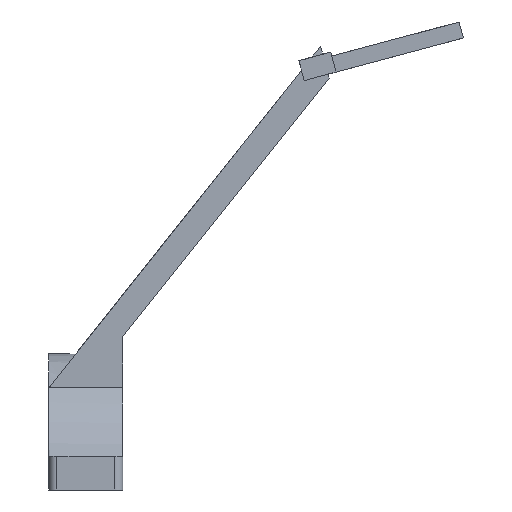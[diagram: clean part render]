
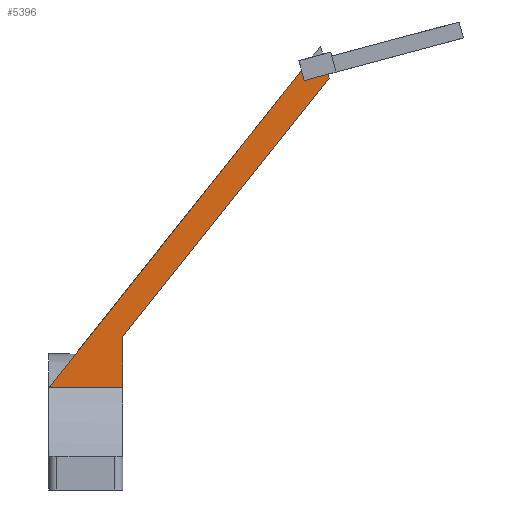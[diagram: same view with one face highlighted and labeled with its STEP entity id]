
A CAD part, front view. The second image highlights one B-rep face of the part: STEP entity #5396.
In plain terms, the highlighted planar face has unit normal (0, -1, 0).
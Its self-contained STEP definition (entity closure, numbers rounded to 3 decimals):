
#33 = CYLINDRICAL_SURFACE('',#34,33.8);
#34 = AXIS2_PLACEMENT_3D('',#35,#36,#37);
#35 = CARTESIAN_POINT('',(-35.,0.,0.));
#36 = DIRECTION('',(-1.,-0.,-0.));
#37 = DIRECTION('',(0.,1.,0.));
#307 = PLANE('',#308);
#308 = AXIS2_PLACEMENT_3D('',#309,#310,#311);
#309 = CARTESIAN_POINT('',(-17.,0.,0.)
  );
#310 = DIRECTION('',(1.,0.,0.));
#311 = DIRECTION('',(-0.,0.,1.));
#454 = VERTEX_POINT('',#455);
#455 = CARTESIAN_POINT('',(-34.873,-22.,25.66));
#473 = PLANE('',#474);
#474 = AXIS2_PLACEMENT_3D('',#475,#476,#477);
#475 = CARTESIAN_POINT('',(31.04,-18.,108.469));
#476 = DIRECTION('',(0.782,0.,-0.623));
#477 = DIRECTION('',(-0.623,0.,-0.782));
#485 = EDGE_CURVE('',#486,#454,#488,.T.);
#486 = VERTEX_POINT('',#487);
#487 = CARTESIAN_POINT('',(-17.,-22.,25.66));
#488 = SURFACE_CURVE('',#489,(#493,#499),.PCURVE_S1.);
#489 = LINE('',#490,#491);
#490 = CARTESIAN_POINT('',(-35.,-22.,25.66));
#491 = VECTOR('',#492,1.);
#492 = DIRECTION('',(-1.,-0.,-0.));
#493 = PCURVE('',#33,#494);
#494 = DEFINITIONAL_REPRESENTATION('',(#495),#498);
#495 = B_SPLINE_CURVE_WITH_KNOTS('',1,(#496,#497),.UNSPECIFIED.,.F.,.F.,
  (2,2),(-18.,0.),.PIECEWISE_BEZIER_KNOTS.);
#496 = CARTESIAN_POINT('',(-2.28,-18.));
#497 = CARTESIAN_POINT('',(-2.28,0.));
#498 = ( GEOMETRIC_REPRESENTATION_CONTEXT(2) 
PARAMETRIC_REPRESENTATION_CONTEXT() REPRESENTATION_CONTEXT('2D SPACE',''
  ) );
#499 = PCURVE('',#500,#505);
#500 = PLANE('',#501);
#501 = AXIS2_PLACEMENT_3D('',#502,#503,#504);
#502 = CARTESIAN_POINT('',(0.058,-22.,63.896));
#503 = DIRECTION('',(-0.,-1.,-0.));
#504 = DIRECTION('',(0.,0.,-1.));
#505 = DEFINITIONAL_REPRESENTATION('',(#506),#509);
#506 = B_SPLINE_CURVE_WITH_KNOTS('',1,(#507,#508),.UNSPECIFIED.,.F.,.F.,
  (2,2),(-18.,0.),.PIECEWISE_BEZIER_KNOTS.);
#507 = CARTESIAN_POINT('',(38.235,-17.058));
#508 = CARTESIAN_POINT('',(38.235,-35.058));
#509 = ( GEOMETRIC_REPRESENTATION_CONTEXT(2) 
PARAMETRIC_REPRESENTATION_CONTEXT() REPRESENTATION_CONTEXT('2D SPACE',''
  ) );
#1666 = PLANE('',#1667);
#1667 = AXIS2_PLACEMENT_3D('',#1668,#1669,#1670);
#1668 = CARTESIAN_POINT('',(46.375,0.,105.331));
#1669 = DIRECTION('',(0.259,0.,-0.966));
#1670 = DIRECTION('',(0.966,0.,0.259));
#1690 = PLANE('',#1691);
#1691 = AXIS2_PLACEMENT_3D('',#1692,#1693,#1694);
#1692 = CARTESIAN_POINT('',(26.021,-20.,104.019));
#1693 = DIRECTION('',(0.966,0.,0.259));
#1694 = DIRECTION('',(0.,1.,0.));
#2042 = VERTEX_POINT('',#2043);
#2043 = CARTESIAN_POINT('',(27.056,-22.,100.155));
#2064 = EDGE_CURVE('',#2065,#2042,#2067,.T.);
#2065 = VERTEX_POINT('',#2066);
#2066 = CARTESIAN_POINT('',(32.852,-22.,101.708));
#2067 = SURFACE_CURVE('',#2068,(#2072,#2078),.PCURVE_S1.);
#2068 = LINE('',#2069,#2070);
#2069 = CARTESIAN_POINT('',(19.588,-22.,98.154));
#2070 = VECTOR('',#2071,1.);
#2071 = DIRECTION('',(-0.966,0.,-0.259));
#2072 = PCURVE('',#1666,#2073);
#2073 = DEFINITIONAL_REPRESENTATION('',(#2074),#2077);
#2074 = B_SPLINE_CURVE_WITH_KNOTS('',1,(#2075,#2076),.UNSPECIFIED.,.F.,
  .F.,(2,2),(-14.,-7.732),.PIECEWISE_BEZIER_KNOTS.);
#2075 = CARTESIAN_POINT('',(-13.732,22.));
#2076 = CARTESIAN_POINT('',(-20.,22.));
#2077 = ( GEOMETRIC_REPRESENTATION_CONTEXT(2) 
PARAMETRIC_REPRESENTATION_CONTEXT() REPRESENTATION_CONTEXT('2D SPACE',''
  ) );
#2078 = PCURVE('',#500,#2079);
#2079 = DEFINITIONAL_REPRESENTATION('',(#2080),#2083);
#2080 = B_SPLINE_CURVE_WITH_KNOTS('',1,(#2081,#2082),.UNSPECIFIED.,.F.,
  .F.,(2,2),(-14.,-7.732),.PIECEWISE_BEZIER_KNOTS.);
#2081 = CARTESIAN_POINT('',(-37.882,33.053));
#2082 = CARTESIAN_POINT('',(-36.26,26.999));
#2083 = ( GEOMETRIC_REPRESENTATION_CONTEXT(2) 
PARAMETRIC_REPRESENTATION_CONTEXT() REPRESENTATION_CONTEXT('2D SPACE',''
  ) );
#2100 = PLANE('',#2101);
#2101 = AXIS2_PLACEMENT_3D('',#2102,#2103,#2104);
#2102 = CARTESIAN_POINT('',(33.11,-18.,100.742));
#2103 = DIRECTION('',(-0.966,-0.,-0.259));
#2104 = DIRECTION('',(-0.259,0.,0.966));
#5028 = VERTEX_POINT('',#5029);
#5029 = CARTESIAN_POINT('',(33.11,-22.,100.742));
#5043 = PLANE('',#5044);
#5044 = AXIS2_PLACEMENT_3D('',#5045,#5046,#5047);
#5045 = CARTESIAN_POINT('',(-17.,-18.,38.));
#5046 = DIRECTION('',(-0.781,0.,0.624));
#5047 = DIRECTION('',(0.624,0.,0.781));
#5055 = EDGE_CURVE('',#5028,#2065,#5056,.T.);
#5056 = SURFACE_CURVE('',#5057,(#5061,#5068),.PCURVE_S1.);
#5057 = LINE('',#5058,#5059);
#5058 = CARTESIAN_POINT('',(33.11,-22.,100.742));
#5059 = VECTOR('',#5060,1.);
#5060 = DIRECTION('',(-0.259,0.,0.966));
#5061 = PCURVE('',#2100,#5062);
#5062 = DEFINITIONAL_REPRESENTATION('',(#5063),#5067);
#5063 = LINE('',#5064,#5065);
#5064 = CARTESIAN_POINT('',(0.,-4.));
#5065 = VECTOR('',#5066,1.);
#5066 = DIRECTION('',(1.,0.));
#5067 = ( GEOMETRIC_REPRESENTATION_CONTEXT(2) 
PARAMETRIC_REPRESENTATION_CONTEXT() REPRESENTATION_CONTEXT('2D SPACE',''
  ) );
#5068 = PCURVE('',#500,#5069);
#5069 = DEFINITIONAL_REPRESENTATION('',(#5070),#5074);
#5070 = LINE('',#5071,#5072);
#5071 = CARTESIAN_POINT('',(-36.847,33.053));
#5072 = VECTOR('',#5073,1.);
#5073 = DIRECTION('',(-0.966,-0.259));
#5074 = ( GEOMETRIC_REPRESENTATION_CONTEXT(2) 
PARAMETRIC_REPRESENTATION_CONTEXT() REPRESENTATION_CONTEXT('2D SPACE',''
  ) );
#5083 = VERTEX_POINT('',#5084);
#5084 = CARTESIAN_POINT('',(-17.,-22.,38.));
#5105 = EDGE_CURVE('',#5083,#5028,#5106,.T.);
#5106 = SURFACE_CURVE('',#5107,(#5111,#5118),.PCURVE_S1.);
#5107 = LINE('',#5108,#5109);
#5108 = CARTESIAN_POINT('',(-17.,-22.,38.));
#5109 = VECTOR('',#5110,1.);
#5110 = DIRECTION('',(0.624,0.,0.781));
#5111 = PCURVE('',#5043,#5112);
#5112 = DEFINITIONAL_REPRESENTATION('',(#5113),#5117);
#5113 = LINE('',#5114,#5115);
#5114 = CARTESIAN_POINT('',(0.,-4.));
#5115 = VECTOR('',#5116,1.);
#5116 = DIRECTION('',(1.,0.));
#5117 = ( GEOMETRIC_REPRESENTATION_CONTEXT(2) 
PARAMETRIC_REPRESENTATION_CONTEXT() REPRESENTATION_CONTEXT('2D SPACE',''
  ) );
#5118 = PCURVE('',#500,#5119);
#5119 = DEFINITIONAL_REPRESENTATION('',(#5120),#5124);
#5120 = LINE('',#5121,#5122);
#5121 = CARTESIAN_POINT('',(25.896,-17.058));
#5122 = VECTOR('',#5123,1.);
#5123 = DIRECTION('',(-0.781,0.624));
#5124 = ( GEOMETRIC_REPRESENTATION_CONTEXT(2) 
PARAMETRIC_REPRESENTATION_CONTEXT() REPRESENTATION_CONTEXT('2D SPACE',''
  ) );
#5160 = EDGE_CURVE('',#5161,#2042,#5163,.T.);
#5161 = VERTEX_POINT('',#5162);
#5162 = CARTESIAN_POINT('',(26.393,-22.,102.631));
#5163 = SURFACE_CURVE('',#5164,(#5168,#5174),.PCURVE_S1.);
#5164 = LINE('',#5165,#5166);
#5165 = CARTESIAN_POINT('',(30.167,-22.,88.546));
#5166 = VECTOR('',#5167,1.);
#5167 = DIRECTION('',(0.259,0.,-0.966));
#5168 = PCURVE('',#1690,#5169);
#5169 = DEFINITIONAL_REPRESENTATION('',(#5170),#5173);
#5170 = B_SPLINE_CURVE_WITH_KNOTS('',1,(#5171,#5172),.UNSPECIFIED.,.F.,
  .F.,(2,2),(-17.018,-12.018),.PIECEWISE_BEZIER_KNOTS.);
#5171 = CARTESIAN_POINT('',(-2.,1.));
#5172 = CARTESIAN_POINT('',(-2.,-4.));
#5173 = ( GEOMETRIC_REPRESENTATION_CONTEXT(2) 
PARAMETRIC_REPRESENTATION_CONTEXT() REPRESENTATION_CONTEXT('2D SPACE',''
  ) );
#5174 = PCURVE('',#500,#5175);
#5175 = DEFINITIONAL_REPRESENTATION('',(#5176),#5179);
#5176 = B_SPLINE_CURVE_WITH_KNOTS('',1,(#5177,#5178),.UNSPECIFIED.,.F.,
  .F.,(2,2),(-17.018,-12.018),.PIECEWISE_BEZIER_KNOTS.);
#5177 = CARTESIAN_POINT('',(-41.089,25.704));
#5178 = CARTESIAN_POINT('',(-36.26,26.999));
#5179 = ( GEOMETRIC_REPRESENTATION_CONTEXT(2) 
PARAMETRIC_REPRESENTATION_CONTEXT() REPRESENTATION_CONTEXT('2D SPACE',''
  ) );
#5374 = EDGE_CURVE('',#5161,#454,#5375,.T.);
#5375 = SURFACE_CURVE('',#5376,(#5380,#5387),.PCURVE_S1.);
#5376 = LINE('',#5377,#5378);
#5377 = CARTESIAN_POINT('',(31.04,-22.,108.469));
#5378 = VECTOR('',#5379,1.);
#5379 = DIRECTION('',(-0.623,0.,-0.782));
#5380 = PCURVE('',#473,#5381);
#5381 = DEFINITIONAL_REPRESENTATION('',(#5382),#5386);
#5382 = LINE('',#5383,#5384);
#5383 = CARTESIAN_POINT('',(-0.,-4.));
#5384 = VECTOR('',#5385,1.);
#5385 = DIRECTION('',(1.,0.));
#5386 = ( GEOMETRIC_REPRESENTATION_CONTEXT(2) 
PARAMETRIC_REPRESENTATION_CONTEXT() REPRESENTATION_CONTEXT('2D SPACE',''
  ) );
#5387 = PCURVE('',#500,#5388);
#5388 = DEFINITIONAL_REPRESENTATION('',(#5389),#5393);
#5389 = LINE('',#5390,#5391);
#5390 = CARTESIAN_POINT('',(-44.574,30.982));
#5391 = VECTOR('',#5392,1.);
#5392 = DIRECTION('',(0.782,-0.623));
#5393 = ( GEOMETRIC_REPRESENTATION_CONTEXT(2) 
PARAMETRIC_REPRESENTATION_CONTEXT() REPRESENTATION_CONTEXT('2D SPACE',''
  ) );
#5396 = ADVANCED_FACE('',(#5397),#500,.T.);
#5397 = FACE_BOUND('',#5398,.T.);
#5398 = EDGE_LOOP('',(#5399,#5400,#5401,#5422,#5423,#5424,#5425));
#5399 = ORIENTED_EDGE('',*,*,#5374,.T.);
#5400 = ORIENTED_EDGE('',*,*,#485,.F.);
#5401 = ORIENTED_EDGE('',*,*,#5402,.T.);
#5402 = EDGE_CURVE('',#486,#5083,#5403,.T.);
#5403 = SURFACE_CURVE('',#5404,(#5408,#5415),.PCURVE_S1.);
#5404 = LINE('',#5405,#5406);
#5405 = CARTESIAN_POINT('',(-17.,-22.,25.5));
#5406 = VECTOR('',#5407,1.);
#5407 = DIRECTION('',(0.,0.,1.));
#5408 = PCURVE('',#500,#5409);
#5409 = DEFINITIONAL_REPRESENTATION('',(#5410),#5414);
#5410 = LINE('',#5411,#5412);
#5411 = CARTESIAN_POINT('',(38.396,-17.058));
#5412 = VECTOR('',#5413,1.);
#5413 = DIRECTION('',(-1.,0.));
#5414 = ( GEOMETRIC_REPRESENTATION_CONTEXT(2) 
PARAMETRIC_REPRESENTATION_CONTEXT() REPRESENTATION_CONTEXT('2D SPACE',''
  ) );
#5415 = PCURVE('',#307,#5416);
#5416 = DEFINITIONAL_REPRESENTATION('',(#5417),#5421);
#5417 = LINE('',#5418,#5419);
#5418 = CARTESIAN_POINT('',(25.5,22.));
#5419 = VECTOR('',#5420,1.);
#5420 = DIRECTION('',(1.,0.));
#5421 = ( GEOMETRIC_REPRESENTATION_CONTEXT(2) 
PARAMETRIC_REPRESENTATION_CONTEXT() REPRESENTATION_CONTEXT('2D SPACE',''
  ) );
#5422 = ORIENTED_EDGE('',*,*,#5105,.T.);
#5423 = ORIENTED_EDGE('',*,*,#5055,.T.);
#5424 = ORIENTED_EDGE('',*,*,#2064,.T.);
#5425 = ORIENTED_EDGE('',*,*,#5160,.F.);
